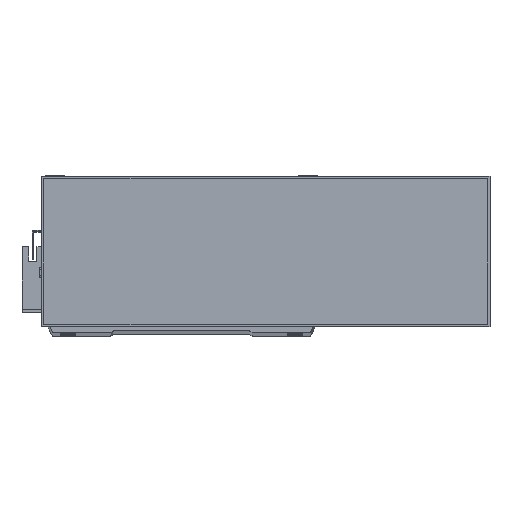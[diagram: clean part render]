
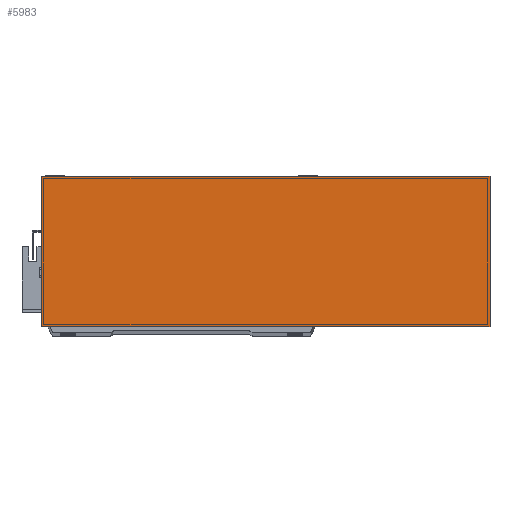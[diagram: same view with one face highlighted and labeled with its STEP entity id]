
A CAD part, top view. The second image highlights one B-rep face of the part: STEP entity #5983.
In plain terms, the highlighted planar face has unit normal (0, 0, 1).
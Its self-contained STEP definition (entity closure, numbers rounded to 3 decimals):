
#132 = VERTEX_POINT ( 'NONE', #25997 ) ;
#920 = ORIENTED_EDGE ( 'NONE', *, *, #27632, .T. ) ;
#2888 = PLANE ( 'NONE',  #15882 ) ;
#4188 = LINE ( 'NONE', #10563, #21416 ) ;
#4833 = CARTESIAN_POINT ( 'NONE',  ( 0., 0., 50. ) ) ;
#5983 = ADVANCED_FACE ( 'NONE', ( #25220 ), #2888, .F. ) ;
#7724 = DIRECTION ( 'NONE',  ( -1., 0., 0. ) ) ;
#7965 = ORIENTED_EDGE ( 'NONE', *, *, #20930, .T. ) ;
#9627 = VERTEX_POINT ( 'NONE', #24780 ) ;
#10348 = CARTESIAN_POINT ( 'NONE',  ( 277., 0., 50. ) ) ;
#10403 = LINE ( 'NONE', #4833, #11112 ) ;
#10563 = CARTESIAN_POINT ( 'NONE',  ( 0., 0., 50. ) ) ;
#11112 = VECTOR ( 'NONE', #18969, 1000. ) ;
#11461 = VECTOR ( 'NONE', #22014, 1000. ) ;
#13396 = CARTESIAN_POINT ( 'NONE',  ( 0., 93., 50. ) ) ;
#15341 = ORIENTED_EDGE ( 'NONE', *, *, #21112, .T. ) ;
#15882 = AXIS2_PLACEMENT_3D ( 'NONE', #19392, #21731, #7724 ) ;
#16083 = EDGE_LOOP ( 'NONE', ( #920, #7965, #15341, #24433 ) ) ;
#16662 = LINE ( 'NONE', #21946, #21421 ) ;
#17718 = LINE ( 'NONE', #10348, #11461 ) ;
#18969 = DIRECTION ( 'NONE',  ( 1., 0., 0. ) ) ;
#19392 = CARTESIAN_POINT ( 'NONE',  ( 0., 0., 50. ) ) ;
#20471 = EDGE_CURVE ( 'NONE', #132, #28838, #16662, .T. ) ;
#20930 = EDGE_CURVE ( 'NONE', #9627, #26477, #10403, .T. ) ;
#21112 = EDGE_CURVE ( 'NONE', #26477, #132, #17718, .T. ) ;
#21416 = VECTOR ( 'NONE', #29239, 1000. ) ;
#21421 = VECTOR ( 'NONE', #24271, 1000. ) ;
#21731 = DIRECTION ( 'NONE',  ( 0., 0., -1. ) ) ;
#21946 = CARTESIAN_POINT ( 'NONE',  ( 0., 93., 50. ) ) ;
#22014 = DIRECTION ( 'NONE',  ( 0., 1., 0. ) ) ;
#24271 = DIRECTION ( 'NONE',  ( -1., 0., 0. ) ) ;
#24433 = ORIENTED_EDGE ( 'NONE', *, *, #20471, .T. ) ;
#24780 = CARTESIAN_POINT ( 'NONE',  ( 0., 0., 50. ) ) ;
#25220 = FACE_OUTER_BOUND ( 'NONE', #16083, .T. ) ;
#25997 = CARTESIAN_POINT ( 'NONE',  ( 277., 93., 50. ) ) ;
#26477 = VERTEX_POINT ( 'NONE', #27160 ) ;
#27160 = CARTESIAN_POINT ( 'NONE',  ( 277., 0., 50. ) ) ;
#27632 = EDGE_CURVE ( 'NONE', #28838, #9627, #4188, .T. ) ;
#28838 = VERTEX_POINT ( 'NONE', #13396 ) ;
#29239 = DIRECTION ( 'NONE',  ( 0., -1., 0. ) ) ;
